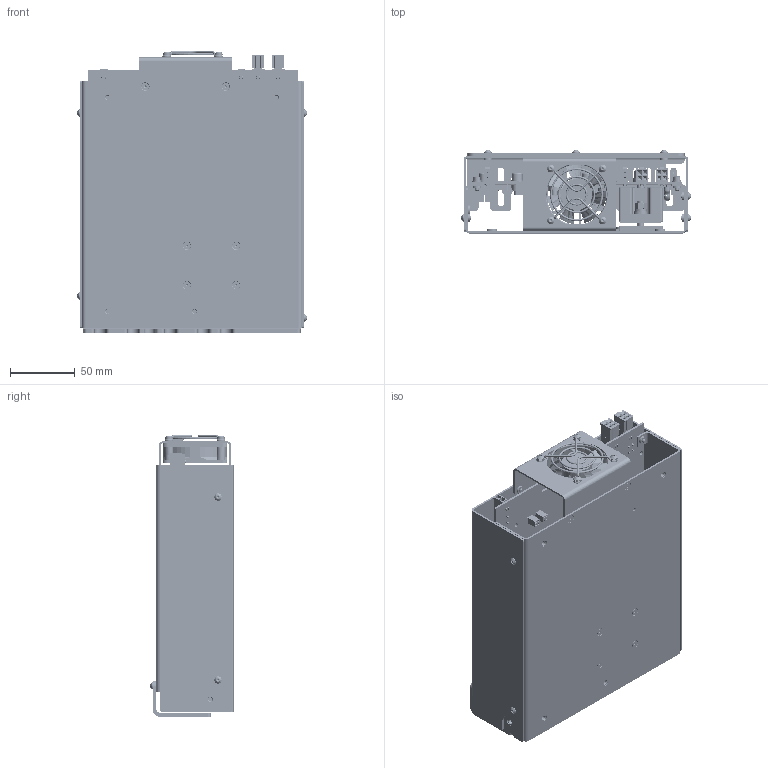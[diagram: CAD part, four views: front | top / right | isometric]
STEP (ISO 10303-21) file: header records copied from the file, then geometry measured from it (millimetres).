
FILE_DESCRIPTION (( 'STEP AP214' ), '1' );
FILE_NAME ('475.00.00.000-B01_NBU-1508.STEP', '2024-11-27T17:20:16', ( '' ), ( '' ), 'SwSTEP 2.0', 'SolidWorks 2018', '' );
FILE_SCHEMA (( 'AUTOMOTIVE_DESIGN' ));
Length unit declared in the file: millimetre
Products named in the file (32): 469.00.04.001-B01_ﾊ煇鳫; 妈眚 󊬱2 DIN912; Âòóëêà ðåçüá. íåïîëíîïðîõ. BSO-M3-14 ZI (2018); ﾘ琺矜 ﾌ6 DIN127 (2018); Fan grill 50x50; 妈眚 󉱴 DIN912 (2018); Ãàéêà CN clinch nut M3 (2018); 475.00.02.000-A01_Êðîíøòåéí â ñáîðå; 469.00.03.001-D01_Êðûøêà; 妈眚 󉱱 DIN7991; Fan 50x50x15; Øïèëüêà M5x25; 475.00.01.000-B01_Êîðïóñ â ñáîðå; 妈眚 󉱲 DIN7991; SBD RevBT(_); 475.00.01.001-B01_扻豵鵨_-00SM-FLAT-PATTERN; 475.00.00.002-A01_Êðûøêà_-00; Ãàéêà Ì5 DIN934; 妈眚 󉱲 ISO7380 (2018); 475.00.00.000-B01_NBU-1508; 妈眚 󊙅2 DIN912; Ãàéêà CN clinch nut M4 (2018); ﾘ琺矜 ﾌ3 DIN125 (2018); 妈眚 󉱭2 ISO7380; 475.00.00.001-B01_砑僔蠂縺; 469.00.04.000-B01_Áëîê âåíòèëÿòîðà; ﾘ琺矜 ﾌ5 DIN125; ﾘ琺矜 ﾌ3 DIN127 (2018); 469.00.03.000-D01_Êðûøêà â ñáîðå; ﾘ琺矜 ﾌ5 DIN127; 475.00.02.001-A01_ﾊ煇鳫; ﾘ琺矜 ﾌ6 DIN125
Assembly tree (121 placements, depth 3):
  475.00.00.000-B01_NBU-1508
    475.00.01.000-B01_Êîðïóñ â ñáîðå
      475.00.01.001-B01_扻豵鵨_-00SM-FLAT-PATTERN
      Ãàéêà CN clinch nut M3 (2018)  x7
      Ãàéêà CN clinch nut M4 (2018)  x5
      Øïèëüêà M5x25  x2
    469.00.03.000-D01_Êðûøêà â ñáîðå
      469.00.03.001-D01_Êðûøêà
      Ãàéêà CN clinch nut M3 (2018)  x3
    469.00.04.000-B01_Áëîê âåíòèëÿòîðà
      469.00.04.001-B01_ﾊ煇鳫
      Ãàéêà CN clinch nut M3 (2018)  x4
      Fan 50x50x15
      Âòóëêà ðåçüá. íåïîëíîïðîõ. BSO-M3-14 ZI (2018)  x4
      Fan grill 50x50
      ﾘ琺矜 ﾌ3 DIN125 (2018)  x4
      ﾘ琺矜 ﾌ3 DIN127 (2018)  x4
      妈眚 󉱭2 ISO7380  x4
    475.00.00.001-B01_砑僔蠂縺  x3
    475.00.00.002-A01_Êðûøêà_-00
    ﾘ琺矜 ﾌ3 DIN125 (2018)  x5
    ﾘ琺矜 ﾌ3 DIN127 (2018)  x5
    妈眚 󉱴 DIN912 (2018)  x5
    妈眚 󉱲 ISO7380 (2018)  x7
    ﾘ琺矜 ﾌ6 DIN125  x3
    ﾘ琺矜 ﾌ6 DIN127 (2018)  x3
    妈眚 󊬱2 DIN912  x3
    ﾘ琺矜 ﾌ5 DIN125  x8
    ﾘ琺矜 ﾌ5 DIN127  x8
    妈眚 󊙅2 DIN912  x6
    妈眚 󉱲 DIN7991  x4
    Ãàéêà Ì5 DIN934  x2
    妈眚 󉱱 DIN7991  x4
    SBD RevBT(_)
    475.00.02.000-A01_Êðîíøòåéí â ñáîðå
      475.00.02.001-A01_ﾊ煇鳫
      Ãàéêà CN clinch nut M3 (2018)  x6
Bounding box: 176.8 x 64.15 x 217.3 mm (x, y, z)
Volume: 227090.1 mm3; surface area: 382997.1 mm2
Topology: 120 solids, 342 shells, 5899 faces, 17363 edges, 11873 vertices
Faces by surface type: cylinder 2914, plane 2268, cone 457, bspline 135, torus 113, sphere 12
Entity records: 159714 total; most frequent: CARTESIAN_POINT 56496, DIRECTION 16598, ORIENTED_EDGE 15360, EDGE_CURVE 9460, VERTEX_POINT 6844, VECTOR 6300, LINE 6300, AXIS2_PLACEMENT_3D 5149
